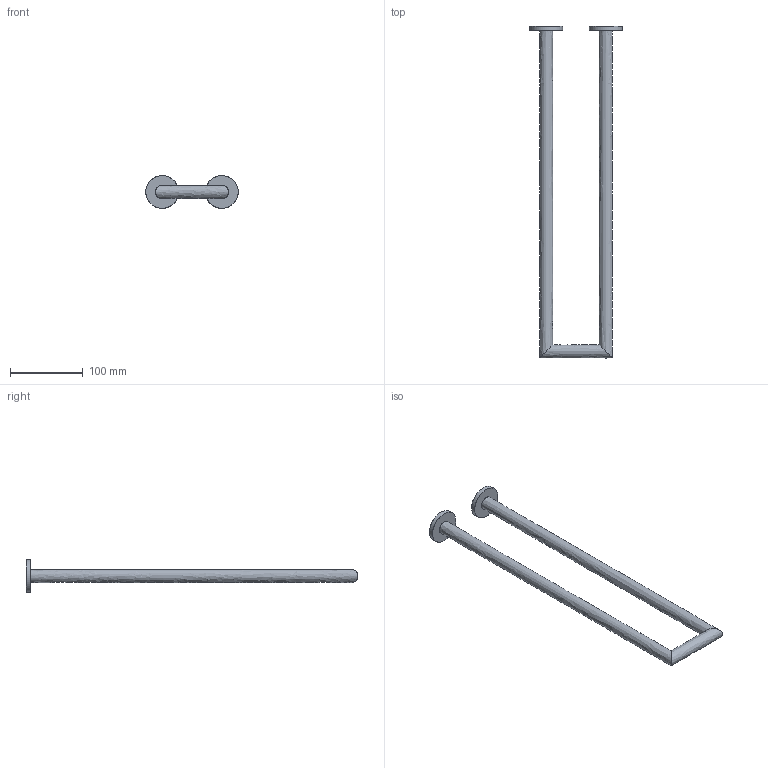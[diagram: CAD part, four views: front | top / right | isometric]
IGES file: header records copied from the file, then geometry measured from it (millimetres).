
Global section: file name: /Users/f/Desktop/II/AE215.igs; native system: Rhinoceros ( Jul 22 2010 ); preprocessor: Trout Lake IGES 012 Jul 22 2010; date: 100802.144906; units: millimetre
Bounding box: 127 x 456 x 45 mm (x, y, z)
Surface area: 63127.5 mm2 (no closed solid volume)
Topology: 0 solids, 0 shells, 11 faces, 201 edges, 198 vertices
Faces by surface type: bspline 11
